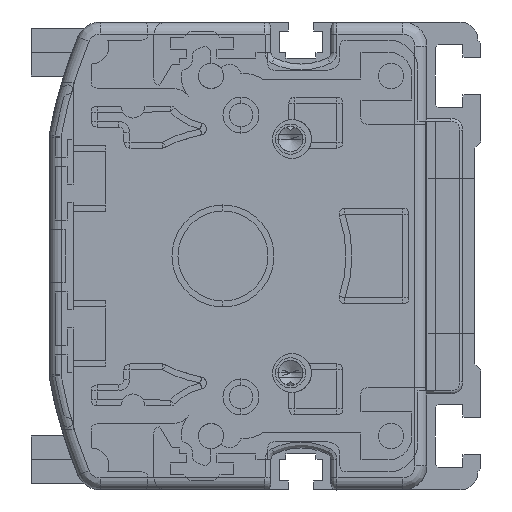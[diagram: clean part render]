
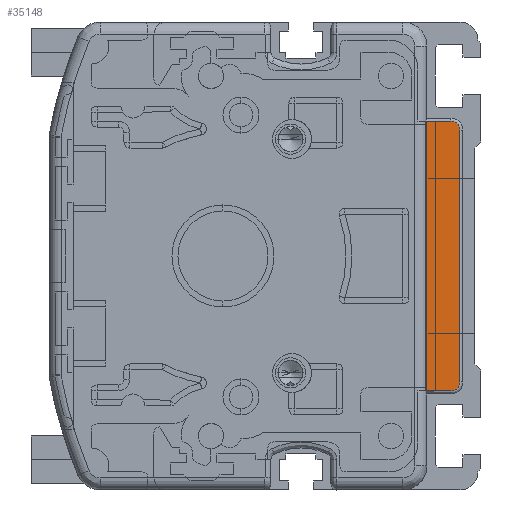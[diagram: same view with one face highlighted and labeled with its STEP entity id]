
A CAD part, left-side view. The second image highlights one B-rep face of the part: STEP entity #35148.
In plain terms, the highlighted planar face has unit normal (-1, 0, 0).
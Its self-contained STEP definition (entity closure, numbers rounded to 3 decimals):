
#29691=DIRECTION('',(0.,0.,-1.));
#29692=VECTOR('',#29691,45.);
#29693=CARTESIAN_POINT('',(-2.,9.268,22.5));
#29694=LINE('',#29693,#29692);
#29726=CARTESIAN_POINT('',(-2.,5.,21.));
#29727=DIRECTION('',(1.,0.,0.));
#29728=DIRECTION('',(0.,0.,1.));
#29729=AXIS2_PLACEMENT_3D('',#29726,#29727,#29728);
#29731=CARTESIAN_POINT('',(-2.,5.,-21.));
#29732=DIRECTION('',(1.,0.,0.));
#29733=DIRECTION('',(0.,-1.,0.));
#29734=AXIS2_PLACEMENT_3D('',#29731,#29732,#29733);
#29740=DIRECTION('',(0.,-1.,0.));
#29741=VECTOR('',#29740,4.268);
#29742=CARTESIAN_POINT('',(-2.,9.268,-22.5));
#29743=LINE('',#29742,#29741);
#30274=DIRECTION('',(0.,0.,1.));
#30275=VECTOR('',#30274,42.);
#30276=CARTESIAN_POINT('',(-2.,3.5,-21.));
#30277=LINE('',#30276,#30275);
#30297=DIRECTION('',(0.,1.,0.));
#30298=VECTOR('',#30297,4.268);
#30299=CARTESIAN_POINT('',(-2.,5.,22.5));
#30300=LINE('',#30299,#30298);
#33583=CARTESIAN_POINT('',(-2.,9.268,22.5));
#33584=CARTESIAN_POINT('',(-2.,9.268,-22.5));
#33585=VERTEX_POINT('',#33583);
#33586=VERTEX_POINT('',#33584);
#33596=CARTESIAN_POINT('',(-2.,5.,-22.5));
#33597=VERTEX_POINT('',#33596);
#33598=CARTESIAN_POINT('',(-2.,3.5,-21.));
#33599=VERTEX_POINT('',#33598);
#33600=CARTESIAN_POINT('',(-2.,3.5,21.));
#33601=VERTEX_POINT('',#33600);
#33602=CARTESIAN_POINT('',(-2.,5.,22.5));
#33603=VERTEX_POINT('',#33602);
#35130=CARTESIAN_POINT('',(-2.,6.384,0.));
#35131=DIRECTION('',(1.,0.,0.));
#35132=DIRECTION('',(0.,0.,-1.));
#35133=AXIS2_PLACEMENT_3D('',#35130,#35131,#35132);
#35134=PLANE('',#35133);
#35136=ORIENTED_EDGE('',*,*,#35135,.F.);
#35137=ORIENTED_EDGE('',*,*,#35109,.F.);
#35139=ORIENTED_EDGE('',*,*,#35138,.F.);
#35141=ORIENTED_EDGE('',*,*,#35140,.T.);
#35143=ORIENTED_EDGE('',*,*,#35142,.F.);
#35145=ORIENTED_EDGE('',*,*,#35144,.T.);
#35146=EDGE_LOOP('',(#35136,#35137,#35139,#35141,#35143,#35145));
#35147=FACE_OUTER_BOUND('',#35146,.F.);
#35148=ADVANCED_FACE('',(#35147),#35134,.F.);
#29730=CIRCLE('',#29729,1.5);
#29735=CIRCLE('',#29734,1.5);
#35109=EDGE_CURVE('',#33585,#33586,#29694,.T.);
#35135=EDGE_CURVE('',#33586,#33597,#29743,.T.);
#35138=EDGE_CURVE('',#33603,#33585,#30300,.T.);
#35140=EDGE_CURVE('',#33603,#33601,#29730,.T.);
#35142=EDGE_CURVE('',#33599,#33601,#30277,.T.);
#35144=EDGE_CURVE('',#33599,#33597,#29735,.T.);
